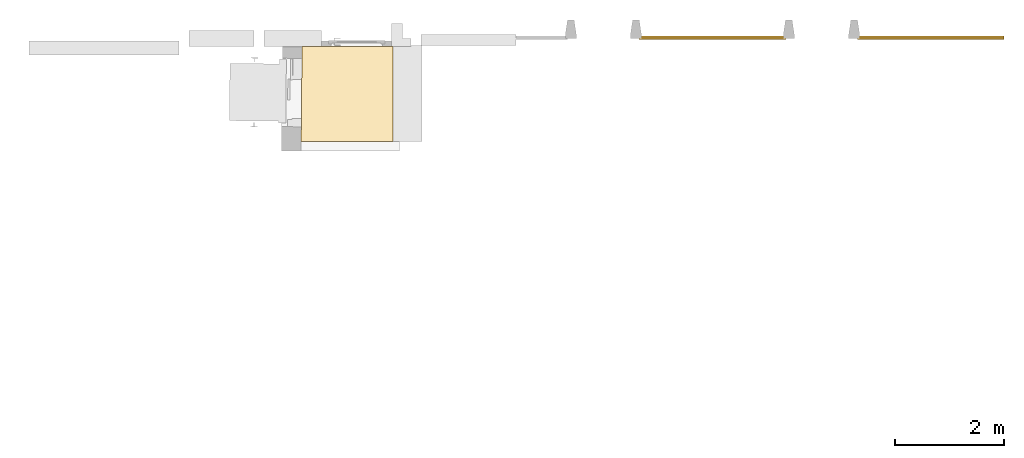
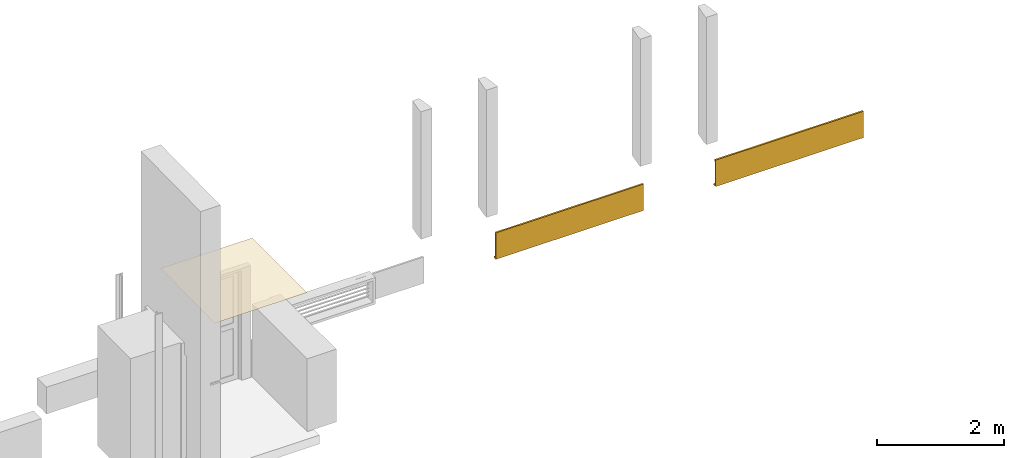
# One storey, part 11 of 13: 2 windows, 1 covering.
"""IFC4 building model written with IfcOpenShell, lengths in metres."""

from ifc_helpers import new_model, entity, si_unit, converted_unit, derived_unit, direction, frame, origin, place, context, subcontext, project, spatial, indexed_curve, outline, extrude, polygons, source, transform, mapped, material, layer, layer_set, type_object, type_shapes, element, save


model = new_model("IFC4")

# Units and contexts
model_context = context("Model", 3, precision=1e-05, world=origin(), true_north=direction((6.12303176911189e-17, 1.0)))
body_context = subcontext(model_context, "Body", "Model", "MODEL_VIEW")
ifc_project = project(units=[si_unit("LENGTHUNIT", "METRE"), si_unit("AREAUNIT", "SQUARE_METRE"), si_unit("VOLUMEUNIT", "CUBIC_METRE"), converted_unit("PLANEANGLEUNIT", "DEGREE", entity("IfcRatioMeasure", 0.0174532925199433), si_unit("PLANEANGLEUNIT", "RADIAN"), dimensions=[0, 0, 0, 0, 0, 0, 0]), si_unit("MASSUNIT", "GRAM", prefix="KILO"), derived_unit("MASSDENSITYUNIT", [(si_unit("MASSUNIT", "GRAM", prefix="KILO"), 1), (si_unit("LENGTHUNIT", "METRE"), -3)]), derived_unit("MOMENTOFINERTIAUNIT", [(si_unit("LENGTHUNIT", "METRE"), 4)]), si_unit("TIMEUNIT", "SECOND"), si_unit("FREQUENCYUNIT", "HERTZ"), si_unit("THERMODYNAMICTEMPERATUREUNIT", "DEGREE_CELSIUS"), derived_unit("THERMALTRANSMITTANCEUNIT", [(si_unit("MASSUNIT", "GRAM", prefix="KILO"), 1), (si_unit("THERMODYNAMICTEMPERATUREUNIT", "KELVIN"), -1), (si_unit("TIMEUNIT", "SECOND"), -3)]), derived_unit("VOLUMETRICFLOWRATEUNIT", [(si_unit("LENGTHUNIT", "METRE"), 3), (si_unit("TIMEUNIT", "SECOND"), -1)]), si_unit("ELECTRICCURRENTUNIT", "AMPERE"), si_unit("ELECTRICVOLTAGEUNIT", "VOLT"), si_unit("POWERUNIT", "WATT"), si_unit("FORCEUNIT", "NEWTON", prefix="KILO"), si_unit("ILLUMINANCEUNIT", "LUX"), si_unit("LUMINOUSFLUXUNIT", "LUMEN"), si_unit("LUMINOUSINTENSITYUNIT", "CANDELA"), derived_unit("USERDEFINED", [(si_unit("MASSUNIT", "GRAM", prefix="KILO"), -1), (si_unit("LENGTHUNIT", "METRE"), -2), (si_unit("TIMEUNIT", "SECOND"), 3), (si_unit("LUMINOUSFLUXUNIT", "LUMEN"), 1)]), derived_unit("LINEARVELOCITYUNIT", [(si_unit("LENGTHUNIT", "METRE"), 1), (si_unit("TIMEUNIT", "SECOND"), -1)]), si_unit("PRESSUREUNIT", "PASCAL"), derived_unit("USERDEFINED", [(si_unit("LENGTHUNIT", "METRE"), -2), (si_unit("MASSUNIT", "GRAM", prefix="KILO"), 1), (si_unit("TIMEUNIT", "SECOND"), -2)]), derived_unit("LINEARFORCEUNIT", [(si_unit("MASSUNIT", "GRAM", prefix="KILO"), 1), (si_unit("LENGTHUNIT", "METRE"), 1), (si_unit("TIMEUNIT", "SECOND"), -2), (si_unit("LENGTHUNIT", "METRE"), -1)]), derived_unit("PLANARFORCEUNIT", [(si_unit("MASSUNIT", "GRAM", prefix="KILO"), 1), (si_unit("LENGTHUNIT", "METRE"), 1), (si_unit("TIMEUNIT", "SECOND"), -2), (si_unit("LENGTHUNIT", "METRE"), -2)])], contexts=[model_context])

# Site, building, storey
site_placement = place(None, origin())
site = spatial("IfcSite", under=ifc_project, at=site_placement, Name="Default", CompositionType="ELEMENT")
building_placement = place(site_placement, origin())
building = spatial("IfcBuilding", under=site, at=building_placement, Name="HOTEL CONSULAIRE BOULOGNE SUR MER", CompositionType="ELEMENT")
storey_placement = place(building_placement, frame((0.0, 0.0, -1.40419978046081)))
storey = spatial("IfcBuildingStorey", under=building, at=storey_placement, Name="Demi-niveau", CompositionType="ELEMENT", Elevation=-1.40419978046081)

# Windows
ifc_material_1 = material(Name="Plâtre", Category="Plâtre")
window_type_1 = type_object("IfcWindowType", Name="grille fenetre:grille fenetre", PartitioningType="NOTDEFINED", PredefinedType="WINDOW", material=ifc_material_1)
shared_shape_1 = source(origin(), body_context, "Body", "SweptSolid", [
    extrude(outline(indexed_curve([(-0.0144740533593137, -0.250387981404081), (0.0515850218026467, -0.250387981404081), (0.0500660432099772, -0.227438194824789), (0.0110660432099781, -0.227438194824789), (-0.0185210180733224, 0.21958373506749), (-0.0145297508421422, 0.21984790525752), (-0.0171299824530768, 0.259134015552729), (-0.0480623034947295, 0.257086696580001), (-0.0144740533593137, -0.250387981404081)], self_intersect=False)), frame((19.6470689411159, -10.0739535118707, -0.819278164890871), z_axis=(1.0, 0.0, 0.0), x_axis=(0.0, 0.997816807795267, -0.0660425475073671)), (0.0, 0.0, 1.0), 2.68995039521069),
])
type_shapes(window_type_1, [shared_shape_1])
window_1_placement = place(storey_placement, frame((0.0, 0.0, 1.40419978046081)))
element("IfcWindow", 1, at=window_1_placement, inside=storey, type_object=window_type_1, material=ifc_material_1, Name="grille fenetre:grille fenetre", ObjectType="grille fenetre:grille fenetre", OverallHeight=0.512947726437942, OverallWidth=2.68995039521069, PartitioningType="NOTDEFINED", PredefinedType="WINDOW", context=body_context, shape_type="MappedRepresentation", body=[
    mapped(shared_shape_1, transform((0.0, 0.0, 0.0), scale=1.0)),
])
window_type_2 = type_object("IfcWindowType", Name="grille fenetre1:grille fenetre", PartitioningType="NOTDEFINED", PredefinedType="WINDOW", material=ifc_material_1)
shared_shape_2 = source(origin(), body_context, "Body", "SweptSolid", [
    extrude(outline(indexed_curve([(-0.0144740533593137, -0.250387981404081), (0.0515850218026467, -0.250387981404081), (0.0500660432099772, -0.227438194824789), (0.0110660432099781, -0.227438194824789), (-0.0185210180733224, 0.21958373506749), (-0.0145297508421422, 0.21984790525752), (-0.0171299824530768, 0.259134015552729), (-0.0480623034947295, 0.257086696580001), (-0.0144740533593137, -0.250387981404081)], self_intersect=False)), frame((19.6470689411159, -10.0739535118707, -0.819278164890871), z_axis=(1.0, 0.0, 0.0), x_axis=(0.0, 0.997816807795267, -0.0660425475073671)), (0.0, 0.0, 1.0), 2.68995039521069),
])
type_shapes(window_type_2, [shared_shape_2])
window_2_placement = place(storey_placement, frame((-4.00196129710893, 0.0, 1.40419978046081)))
element("IfcWindow", 2, at=window_2_placement, inside=storey, type_object=window_type_2, material=ifc_material_1, Name="grille fenetre1:grille fenetre", ObjectType="grille fenetre1:grille fenetre", OverallHeight=0.512947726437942, OverallWidth=2.68995039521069, PartitioningType="NOTDEFINED", PredefinedType="WINDOW", context=body_context, shape_type="MappedRepresentation", body=[
    mapped(shared_shape_2, transform((0.0, 0.0, 0.0), scale=1.0)),
])

# Covering
ifc_material_2 = material(Name="Faux-plafond - Trame 600 x 600", Category="Divers")
ifc_layer = layer(ifc_material_2, 0.0, Name="Faux-plafond - Trame 600 x 600", Category="Divers")
ifc_layer_set = layer_set([ifc_layer], Name="Plafond de base:Plafond 600 mm x 1200 mm")
covering_type = type_object("IfcCoveringType", Name="Plafond de base:Plafond 600 mm x 1200 mm", PredefinedType="CEILING")
covering_placement = place(storey_placement, frame((9.44795580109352, -11.9707913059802, 2.40710165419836)))
element("IfcCovering", 3, at=covering_placement, inside=storey, type_object=covering_type, material=ifc_layer_set, Name="Plafond de base:Plafond 600 mm x 1200 mm", ObjectType="Plafond de base:Plafond 600 mm x 1200 mm", PredefinedType="CEILING", context=body_context, shape_type="Tessellation", body=[
    polygons([(-1.08286712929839e-15, 6.49720277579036e-15, 0.0), (1.68324170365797, 0.0, 0.0), (1.68324170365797, 1.73646714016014, 0.0), (0.0167104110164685, 1.73646714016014, 0.0)], [[[4, 1, 2, 3]]], closed=True),
])

save(model, "model.ifc")
